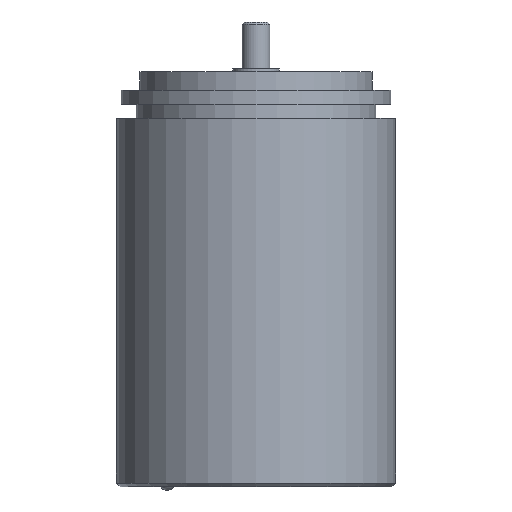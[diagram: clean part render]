
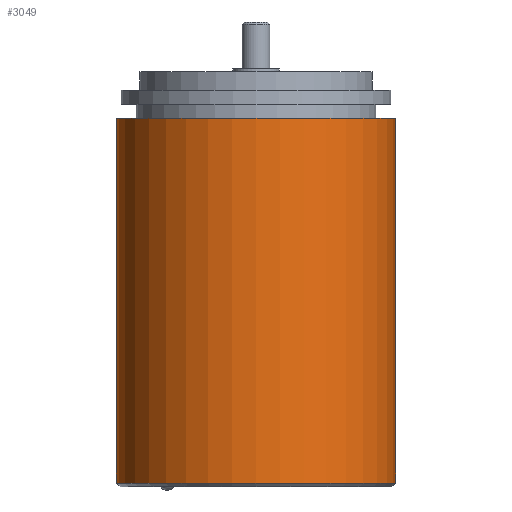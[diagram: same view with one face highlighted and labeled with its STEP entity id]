
A CAD part, front view. The second image highlights one B-rep face of the part: STEP entity #3049.
In plain terms, the highlighted cylindrical face has radius 30 mm (diameter 60 mm), a full revolution.
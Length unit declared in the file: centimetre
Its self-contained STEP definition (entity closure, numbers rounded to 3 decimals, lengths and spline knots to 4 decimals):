
#167=VECTOR('',#4976,1.);
#168=VECTOR('',#4979,1.);
#269=LINE('',#3929,#167);
#270=LINE('',#3933,#168);
#384=CYLINDRICAL_SURFACE('',#3358,3.);
#620=VERTEX_POINT('',#3925);
#621=VERTEX_POINT('',#3927);
#622=VERTEX_POINT('',#3928);
#623=VERTEX_POINT('',#3930);
#624=VERTEX_POINT('',#3932);
#625=VERTEX_POINT('',#3935);
#909=CIRCLE('',#3359,3.);
#910=CIRCLE('',#3360,3.);
#911=CIRCLE('',#3361,3.);
#912=CIRCLE('',#3362,3.);
#1151=EDGE_CURVE('',#620,#620,#909,.T.);
#1152=EDGE_CURVE('',#621,#622,#910,.T.);
#1153=EDGE_CURVE('',#622,#623,#269,.T.);
#1154=EDGE_CURVE('',#623,#624,#911,.T.);
#1155=EDGE_CURVE('',#624,#621,#270,.T.);
#1156=EDGE_CURVE('',#625,#625,#912,.T.);
#1541=ORIENTED_EDGE('',*,*,#1151,.F.);
#1542=ORIENTED_EDGE('',*,*,#1152,.T.);
#1543=ORIENTED_EDGE('',*,*,#1153,.T.);
#1544=ORIENTED_EDGE('',*,*,#1154,.T.);
#1545=ORIENTED_EDGE('',*,*,#1155,.T.);
#1546=ORIENTED_EDGE('',*,*,#1156,.F.);
#2245=EDGE_LOOP('',(#1541));
#2246=EDGE_LOOP('',(#1542,#1543,#1544,#1545));
#2247=EDGE_LOOP('',(#1546));
#2663=FACE_BOUND('',#2245,.T.);
#2664=FACE_BOUND('',#2246,.T.);
#2665=FACE_BOUND('',#2247,.T.);
#3049=ADVANCED_FACE('',(#2663,#2664,#2665),#384,.T.);
#3358=AXIS2_PLACEMENT_3D('',#3923,#4970,#4971);
#3359=AXIS2_PLACEMENT_3D('',#3924,#4972,#4973);
#3360=AXIS2_PLACEMENT_3D('',#3926,#4974,#4975);
#3361=AXIS2_PLACEMENT_3D('',#3931,#4977,#4978);
#3362=AXIS2_PLACEMENT_3D('',#3934,#4980,#4981);
#3923=CARTESIAN_POINT('',(0.,0.,0.2));
#3924=CARTESIAN_POINT('',(0.,0.,-7.44));
#3925=CARTESIAN_POINT('',(-3.,0.,-7.44));
#3926=CARTESIAN_POINT('',(0.,0.,-3.253));
#3927=CARTESIAN_POINT('',(-0.9488,2.846,-3.253));
#3928=CARTESIAN_POINT('',(0.9488,2.846,-3.253));
#3929=CARTESIAN_POINT('',(0.9488,2.846,-2.303));
#3930=CARTESIAN_POINT('',(0.9488,2.846,-1.353));
#3931=CARTESIAN_POINT('',(0.,0.,-1.353));
#3932=CARTESIAN_POINT('',(-0.9488,2.846,-1.353));
#3933=CARTESIAN_POINT('',(-0.9488,2.846,-2.303));
#3934=CARTESIAN_POINT('',(0.,0.,0.4));
#3935=CARTESIAN_POINT('',(0.,3.,0.4));
#4970=DIRECTION('',(0.,0.,1.));
#4971=DIRECTION('',(0.,3.,0.));
#4972=DIRECTION('',(0.,0.,-1.));
#4973=DIRECTION('',(3.,0.,0.));
#4974=DIRECTION('',(0.,0.,-1.));
#4975=DIRECTION('',(3.,0.,0.));
#4976=DIRECTION('',(0.,0.,1.));
#4977=DIRECTION('',(0.,0.,1.));
#4978=DIRECTION('',(3.,0.,0.));
#4979=DIRECTION('',(0.,0.,-1.));
#4980=DIRECTION('',(0.,0.,1.));
#4981=DIRECTION('',(0.,3.,0.));
